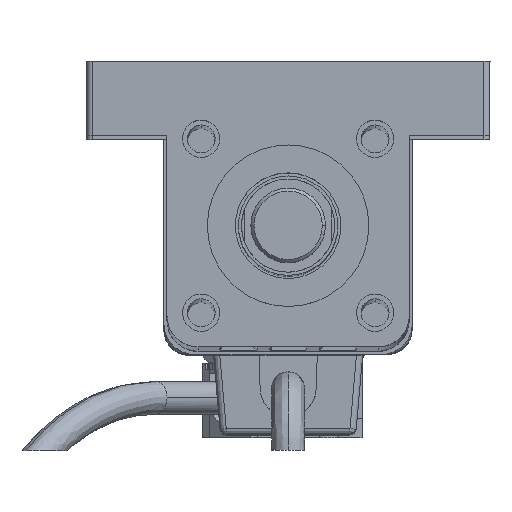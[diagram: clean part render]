
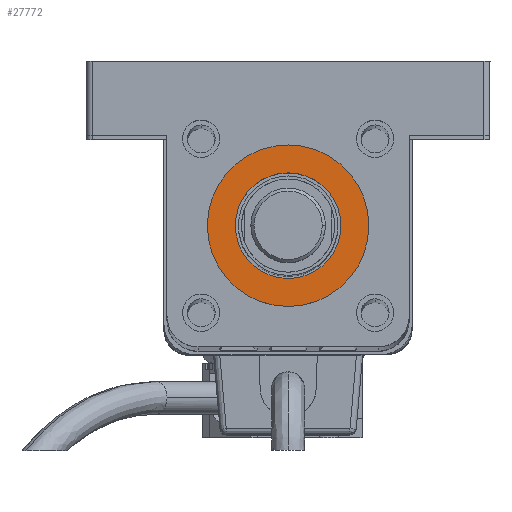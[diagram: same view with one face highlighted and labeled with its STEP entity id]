
A CAD part, top view. The second image highlights one B-rep face of the part: STEP entity #27772.
In plain terms, the highlighted planar face has unit normal (0, 0, 1) as drawn and (0, 0, -1) by its records, which use the part's own axes.
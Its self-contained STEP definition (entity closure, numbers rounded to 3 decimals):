
#643 = AXIS2_PLACEMENT_3D ( 'NONE', #24400, #26664, #13057 ) ;
#788 = FACE_OUTER_BOUND ( 'NONE', #12903, .T. ) ;
#868 = DIRECTION ( 'NONE',  ( 0., 0., -1. ) ) ;
#870 = CARTESIAN_POINT ( 'NONE',  ( 11., -19.5, -3. ) ) ;
#3200 = CARTESIAN_POINT ( 'NONE',  ( 32.5, -19.5, -3. ) ) ;
#3297 = DIRECTION ( 'NONE',  ( 0., 0., -1. ) ) ;
#3650 = CIRCLE ( 'NONE', #643, 8.5 ) ;
#4187 = AXIS2_PLACEMENT_3D ( 'NONE', #5763, #3297, #19048 ) ;
#4997 = DIRECTION ( 'NONE',  ( -1., 0., 0. ) ) ;
#5244 = VERTEX_POINT ( 'NONE', #870 ) ;
#5763 = CARTESIAN_POINT ( 'NONE',  ( 19.5, -19.5, -3. ) ) ;
#5878 = EDGE_CURVE ( 'NONE', #9464, #25196, #27923, .T. ) ;
#8953 = ORIENTED_EDGE ( 'NONE', *, *, #5878, .T. ) ;
#9194 = EDGE_CURVE ( 'NONE', #11207, #5244, #3650, .T. ) ;
#9329 = CIRCLE ( 'NONE', #23858, 8.5 ) ;
#9464 = VERTEX_POINT ( 'NONE', #3200 ) ;
#10955 = ORIENTED_EDGE ( 'NONE', *, *, #23490, .T. ) ;
#11207 = VERTEX_POINT ( 'NONE', #24925 ) ;
#12710 = EDGE_LOOP ( 'NONE', ( #18687, #24226 ) ) ;
#12903 = EDGE_LOOP ( 'NONE', ( #8953, #10955 ) ) ;
#12961 = DIRECTION ( 'NONE',  ( 0., 0., -1. ) ) ;
#13057 = DIRECTION ( 'NONE',  ( -1., 0., 0. ) ) ;
#14539 = PLANE ( 'NONE',  #21770 ) ;
#14780 = AXIS2_PLACEMENT_3D ( 'NONE', #14850, #23924, #18984 ) ;
#14850 = CARTESIAN_POINT ( 'NONE',  ( 19.5, -19.5, -3. ) ) ;
#16819 = CARTESIAN_POINT ( 'NONE',  ( 19.5, -19.5, -3. ) ) ;
#18687 = ORIENTED_EDGE ( 'NONE', *, *, #23423, .F. ) ;
#18984 = DIRECTION ( 'NONE',  ( -1., 0., 0. ) ) ;
#19048 = DIRECTION ( 'NONE',  ( -1., 0., 0. ) ) ;
#21054 = CARTESIAN_POINT ( 'NONE',  ( 19.5, -19.5, -3. ) ) ;
#21770 = AXIS2_PLACEMENT_3D ( 'NONE', #16819, #12961, #28645 ) ;
#23423 = EDGE_CURVE ( 'NONE', #5244, #11207, #9329, .T. ) ;
#23490 = EDGE_CURVE ( 'NONE', #25196, #9464, #25899, .T. ) ;
#23858 = AXIS2_PLACEMENT_3D ( 'NONE', #21054, #868, #4997 ) ;
#23924 = DIRECTION ( 'NONE',  ( 0., 0., -1. ) ) ;
#24070 = FACE_BOUND ( 'NONE', #12710, .T. ) ;
#24226 = ORIENTED_EDGE ( 'NONE', *, *, #9194, .F. ) ;
#24400 = CARTESIAN_POINT ( 'NONE',  ( 19.5, -19.5, -3. ) ) ;
#24925 = CARTESIAN_POINT ( 'NONE',  ( 28., -19.5, -3. ) ) ;
#25196 = VERTEX_POINT ( 'NONE', #28330 ) ;
#25899 = CIRCLE ( 'NONE', #14780, 13. ) ;
#26664 = DIRECTION ( 'NONE',  ( 0., 0., -1. ) ) ;
#27772 = ADVANCED_FACE ( 'NONE', ( #24070, #788 ), #14539, .T. ) ;
#27923 = CIRCLE ( 'NONE', #4187, 13. ) ;
#28330 = CARTESIAN_POINT ( 'NONE',  ( 6.5, -19.5, -3. ) ) ;
#28645 = DIRECTION ( 'NONE',  ( -1., 0., 0. ) ) ;
